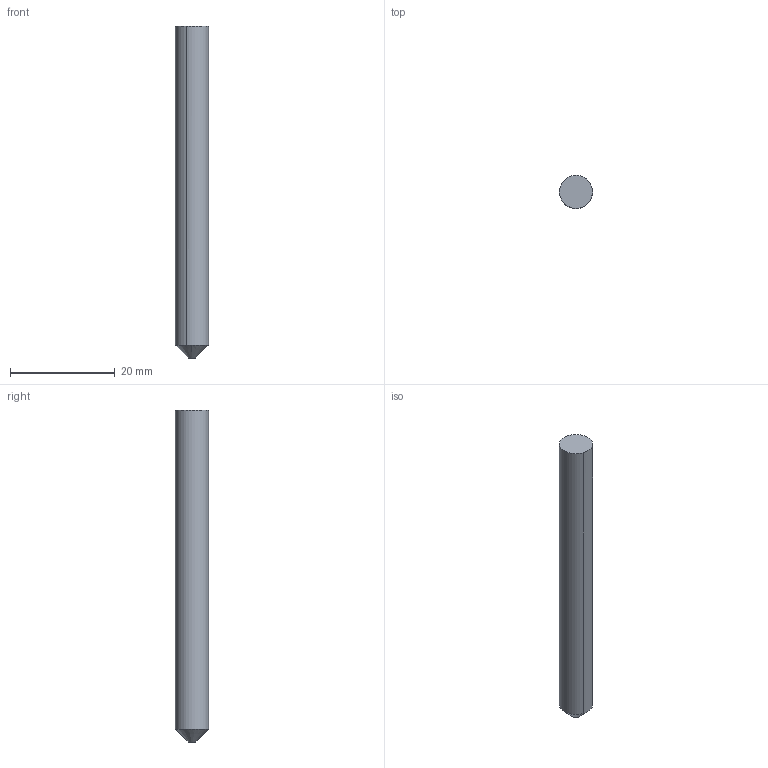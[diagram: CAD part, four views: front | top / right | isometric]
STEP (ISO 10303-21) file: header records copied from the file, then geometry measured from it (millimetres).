
FILE_DESCRIPTION((' '),'2;1');
FILE_NAME( '5HC025003B.stp', '2026-01-21T09:08:41', (' '), ('--- Datakit www.datakit.com---'), ' Datakit CrossCadWare V2025.4 Sep 19 2025', 'Mastercam 2027', ' ');
FILE_SCHEMA(('AUTOMOTIVE_DESIGN { 1 0 10303 214 1 1 1 1 }'));
Length unit declared in the file: inch
Products named in the file (1): 5HC025003B
Bounding box: 6.35 x 6.35 x 63.5 mm (x, y, z)
Volume: 1967.6 mm3; surface area: 1294.3 mm2
Topology: 1 solids, 1 shells, 6 faces, 11 edges, 7 vertices
Faces by surface type: plane 2, cone 2, cylinder 2
Entity records: 222 total; most frequent: DIRECTION 40, CARTESIAN_POINT 29, ORIENTED_EDGE 22, AXIS2_PLACEMENT_3D 18, EDGE_CURVE 11, VERTEX_POINT 7, CIRCLE 7, EDGE_LOOP 6
